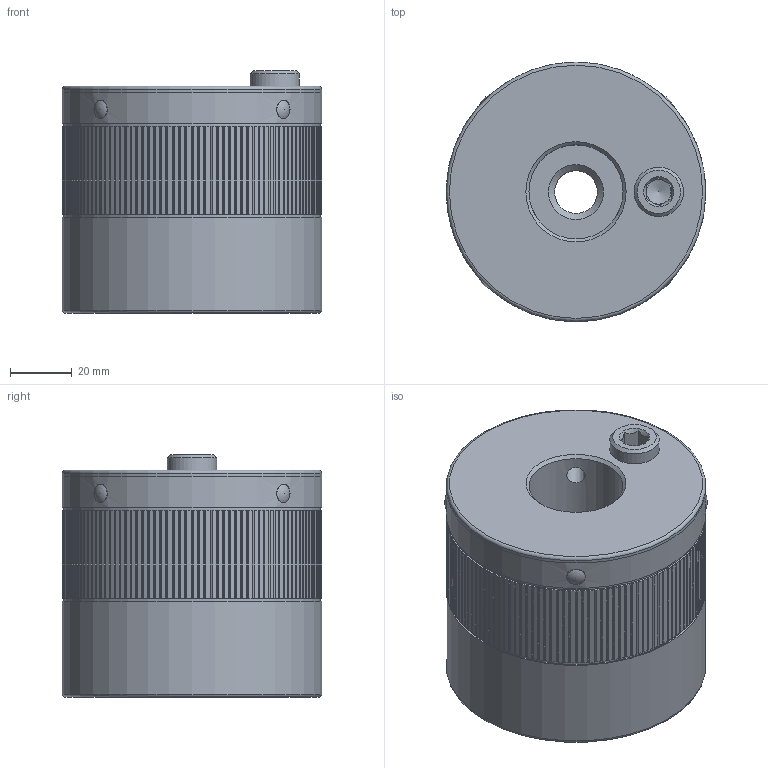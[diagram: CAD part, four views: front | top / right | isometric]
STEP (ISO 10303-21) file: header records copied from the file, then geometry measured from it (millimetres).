
FILE_DESCRIPTION(/* description */ ('Unknown','CAx-IF Rec.Pracs.---Representation and Presentation of Product Manufacturing Information (PMI)---4.0---2014-10-13','CAx-IF Rec.Pracs.---3D Tessellated Geometry---0.4---2014-09-14','2;1'),/* implementation_level */ '2;1');
FILE_NAME(/* name */ 'MDA 120_SW8_M16',/* time_stamp */ '2023-09-15T11:20:56+02:00',/* author */ ('Unknown'),/* organization */ ('Unknown'),/* preprocessor_version */ 'ST-DEVELOPER v18.102',/* originating_system */ 'Solid Edge',/* authorisation */ 'Unknown');
FILE_SCHEMA (('AP242_MANAGED_MODEL_BASED_3D_ENGINEERING_MIM_LF { 1 0 10303 442 1 1 4 }'));
Length unit declared in the file: millimetre
Products named in the file (7): 05933089; 43733046; 42231915; 46431916; KT100003; KT101191; 46331545
Assembly tree (9 placements, depth 2):
  05933089
    43733046
    42231915
    46431916
    KT100003  x4
    KT101191
    46331545
Bounding box: 84 x 84 x 78.5 mm (x, y, z)
Volume: 359152.8 mm3; surface area: 106243.2 mm2
Topology: 9 solids, 9 shells, 506 faces, 1424 edges, 939 vertices
Faces by surface type: plane 290, cylinder 167, cone 25, torus 10, sphere 8, bspline 6
Full cylindrical faces by diameter (mm): 1.6 x1, 6 x12, 8 x1, 13.835 x1, 16 x2, 16.5 x1, 30.5 x1, 48 x3, 66.2 x1, 71 x1, 74 x1, 76.5 x1, 76.9 x1, 77 x3, 83 x2, 84 x3
Entity records: 16338 total; most frequent: CARTESIAN_POINT 3316, DIRECTION 2606, ORIENTED_EDGE 2596, EDGE_CURVE 1298, LINE 918, VECTOR 918, VERTEX_POINT 900, AXIS2_PLACEMENT_3D 844
